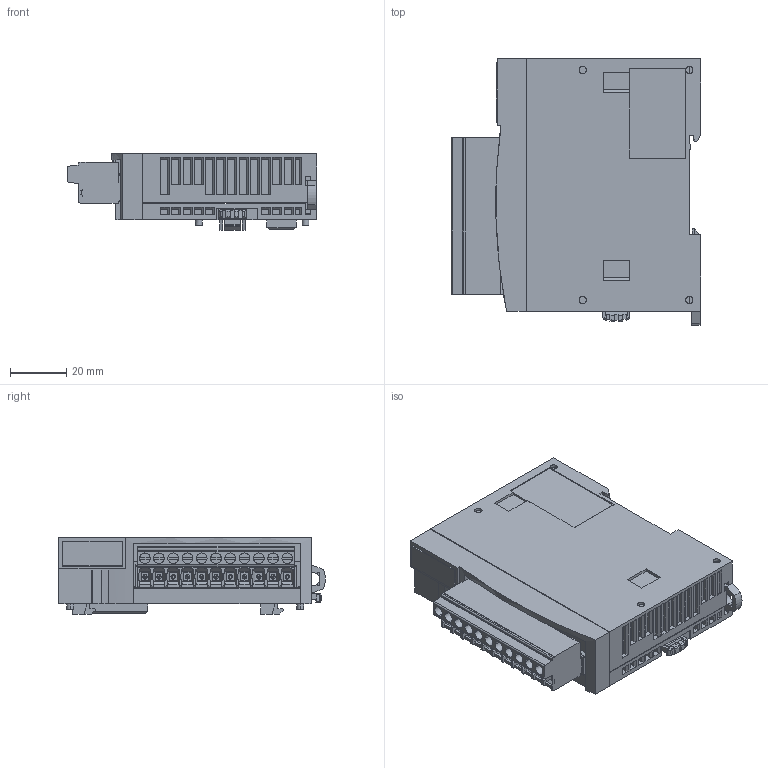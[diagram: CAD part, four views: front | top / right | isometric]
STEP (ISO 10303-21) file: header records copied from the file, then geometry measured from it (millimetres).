
FILE_DESCRIPTION (( 'STEP AP214' ), '1' );
FILE_NAME ('OUTSIDE-FC6A-#08##.step', '2016-01-12T05:32:04', ( '' ), ( '' ), 'SwSTEP 2.0', 'SolidWorks 2014', '' );
FILE_SCHEMA (( 'AUTOMOTIVE_DESIGN' ));
Length unit declared in the file: millimetre
Products named in the file (3): OUTSIDE-FC6A-#08##; OUTSIDE-FC6A-EX-DIN-RAIL-HOOK; OUTSIDE-FC6A-#08##-BODY
Assembly tree (2 placements, depth 2):
  OUTSIDE-FC6A-#08##
    OUTSIDE-FC6A-#08##-BODY
    OUTSIDE-FC6A-EX-DIN-RAIL-HOOK
Bounding box: 88.8 x 95.11 x 27.4 mm (x, y, z)
Volume: 142894.1 mm3; surface area: 56170.1 mm2
Topology: 2 solids, 2 shells, 2307 faces, 6405 edges, 4148 vertices
Faces by surface type: plane 1704, cylinder 360, cone 133, bspline 90, sphere 20
Entity records: 95245 total; most frequent: CARTESIAN_POINT 23994, ORIENTED_EDGE 12704, DIRECTION 11007, EDGE_CURVE 6352, LINE 4919, VECTOR 4919, VERTEX_POINT 4129, AXIS2_PLACEMENT_3D 3044
